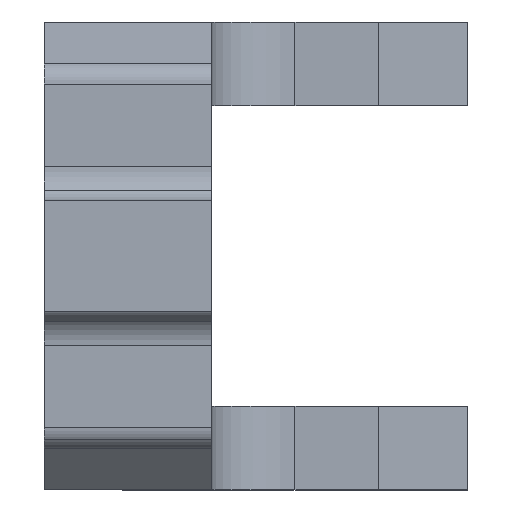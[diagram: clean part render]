
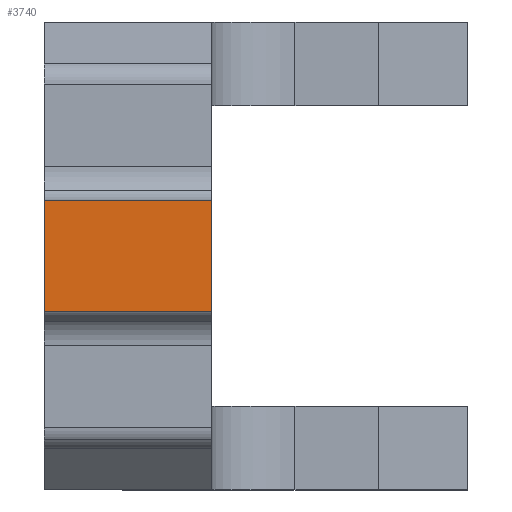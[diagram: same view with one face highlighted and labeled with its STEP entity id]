
A CAD part, left-side view. The second image highlights one B-rep face of the part: STEP entity #3740.
In plain terms, the highlighted planar face has unit normal (-1, 0, 0).
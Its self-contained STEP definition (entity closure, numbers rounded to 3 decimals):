
#3057=CARTESIAN_POINT('',(-185.338,58.375,-49.));
#3058=VERTEX_POINT('',#3057);
#3065=CARTESIAN_POINT('',(-185.338,58.375,-29.));
#3066=VERTEX_POINT('',#3065);
#3067=CARTESIAN_POINT('',(-185.338,58.375,-29.));
#3068=DIRECTION('',(0.0,0.0,-1.0));
#3069=VECTOR('',#3068,20.0);
#3070=LINE('',#3067,#3069);
#3071=EDGE_CURVE('',#3066,#3058,#3070,.T.);
#3235=CARTESIAN_POINT('',(-185.338,28.375,-29.));
#3236=VERTEX_POINT('',#3235);
#3243=CARTESIAN_POINT('',(-185.338,28.375,-49.));
#3244=VERTEX_POINT('',#3243);
#3245=CARTESIAN_POINT('',(-185.338,28.375,-49.));
#3246=DIRECTION('',(0.0,0.0,1.0));
#3247=VECTOR('',#3246,20.0);
#3248=LINE('',#3245,#3247);
#3249=EDGE_CURVE('',#3244,#3236,#3248,.T.);
#3685=CARTESIAN_POINT('',(-185.338,58.375,-49.));
#3686=DIRECTION('',(0.0,-1.0,0.0));
#3687=VECTOR('',#3686,30.);
#3688=LINE('',#3685,#3687);
#3689=EDGE_CURVE('',#3058,#3244,#3688,.T.);
#3719=CARTESIAN_POINT('',(-185.338,58.375,-29.));
#3720=DIRECTION('',(0.0,-1.0,0.0));
#3721=VECTOR('',#3720,30.);
#3722=LINE('',#3719,#3721);
#3723=EDGE_CURVE('',#3066,#3236,#3722,.T.);
#3729=CARTESIAN_POINT('',(-185.338,58.375,-49.));
#3730=DIRECTION('',(-1.0,0.0,0.0));
#3731=DIRECTION('',(0.0,0.0,1.0));
#3732=AXIS2_PLACEMENT_3D('',#3729,#3730,#3731);
#3733=PLANE('',#3732);
#3734=ORIENTED_EDGE('',*,*,#3249,.T.);
#3735=ORIENTED_EDGE('',*,*,#3723,.F.);
#3736=ORIENTED_EDGE('',*,*,#3071,.T.);
#3737=ORIENTED_EDGE('',*,*,#3689,.T.);
#3738=EDGE_LOOP('',(#3734,#3735,#3736,#3737));
#3739=FACE_OUTER_BOUND('',#3738,.T.);
#3740=ADVANCED_FACE('',(#3739),#3733,.T.);
